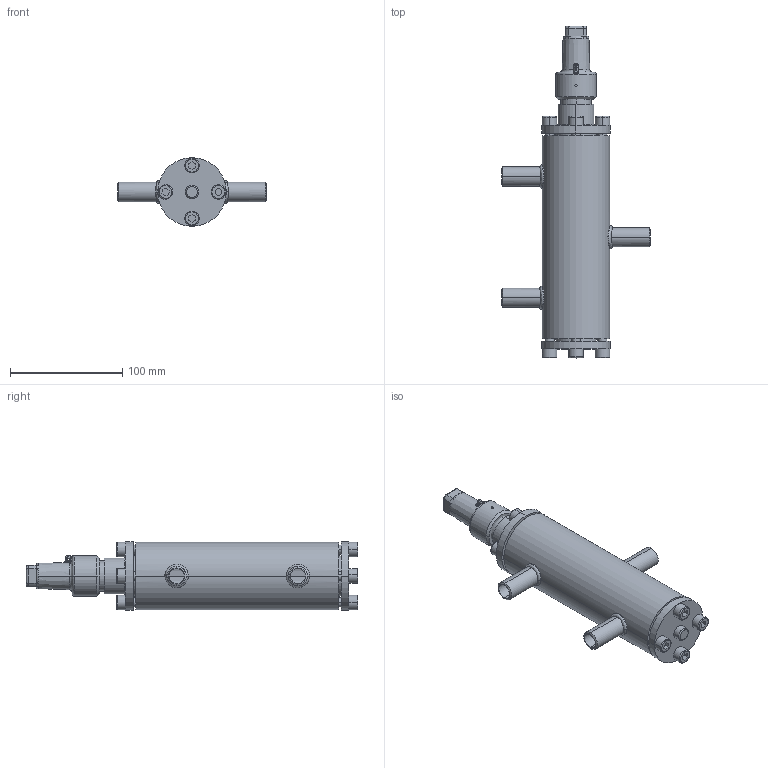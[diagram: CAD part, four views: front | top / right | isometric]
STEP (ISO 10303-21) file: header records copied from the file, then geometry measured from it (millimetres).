
FILE_DESCRIPTION (( 'STEP AP214' ), '1' );
FILE_NAME ('WVR24000D08-DN010_R1_PS40.STEP', '2010-09-08T08:18:22', ( 'Eckhard Grams' ), ( 'AWP Kälte Klima Armaturen GmbH' ), 'SwSTEP 2.0', 'SolidWorks 2002296', '' );
FILE_SCHEMA (( 'AUTOMOTIVE_DESIGN' ));
Length unit declared in the file: millimetre
Products named in the file (12): WVR24000D08-DN010_R1_PS40; Geh,kpl24000E08_DN10_R1_PS40_Standard; Gehäuse24000E08-DN10_R1_PS40_Standard; Rohrstutzen-24000E08-DN10_R1_Standard; Schw-24000E08-DN10_Standard; AVR26300K10_Deck+Schr-DN10-20_Standard; Deckel26300K10-DN10-20_Standard; Zylinderschraube-DIN912_M 8x  16; WVB-R23000K10_Deck+Schr-DN10-20_Standard; Deckel24000E10-DN10-20_Standard; Zylinderschraube-DIN912_M 8x  25; Kappe 96300E10_DN6-20 (M27x2)_Standard
Assembly tree (21 placements, depth 3):
  WVR24000D08-DN010_R1_PS40
    Geh,kpl24000E08_DN10_R1_PS40_Standard
      Rohrstutzen-24000E08-DN10_R1_Standard  x3
      Schw-24000E08-DN10_Standard  x3
      Gehäuse24000E08-DN10_R1_PS40_Standard
    AVR26300K10_Deck+Schr-DN10-20_Standard
      Deckel26300K10-DN10-20_Standard
      Zylinderschraube-DIN912_M 8x  16  x4
    WVB-R23000K10_Deck+Schr-DN10-20_Standard
      Zylinderschraube-DIN912_M 8x  25  x4
      Deckel24000E10-DN10-20_Standard
    Kappe 96300E10_DN6-20 (M27x2)_Standard
Bounding box: 132 x 295.5 x 61 mm (x, y, z)
Volume: 464187.7 mm3; surface area: 115511.7 mm2
Topology: 18 solids, 18 shells, 402 faces, 909 edges, 569 vertices
Faces by surface type: cylinder 170, plane 128, cone 41, torus 41, bspline 22
Entity records: 21357 total; most frequent: CARTESIAN_POINT 14412, DIRECTION 1309, ORIENTED_EDGE 1182, EDGE_CURVE 591, AXIS2_PLACEMENT_3D 551, VERTEX_POINT 369, EDGE_LOOP 306, CIRCLE 282
